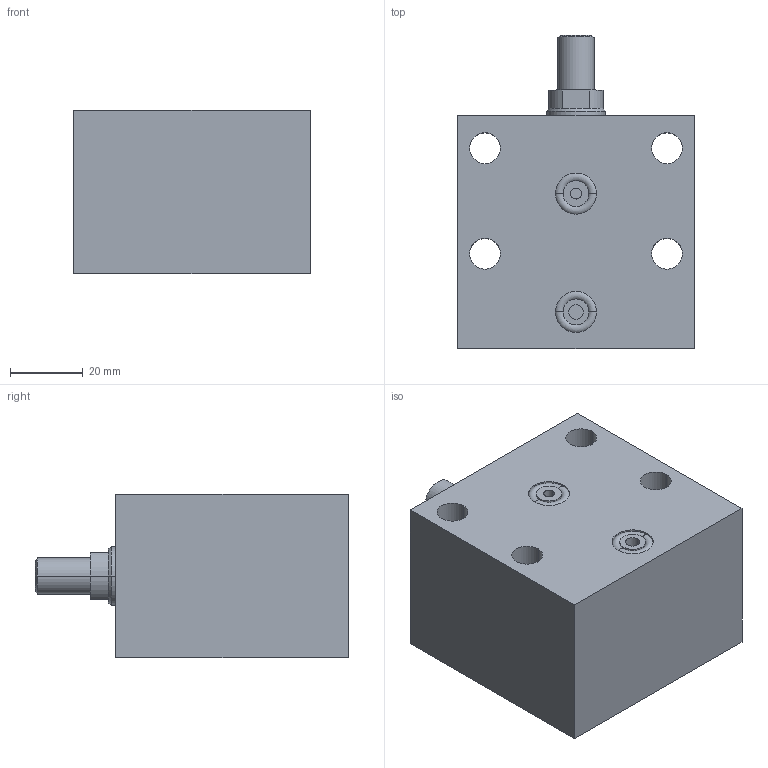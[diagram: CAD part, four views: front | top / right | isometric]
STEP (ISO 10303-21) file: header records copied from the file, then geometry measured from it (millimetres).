
FILE_DESCRIPTION (( 'STEP AP203' ), '1' );
FILE_NAME ('GERMA_Blockzylinder_603-025-020-A.STEP', '2016-01-08T18:11:25', ( '' ), ( '' ), 'SwSTEP 2.0', 'SolidWorks 2015', '' );
FILE_SCHEMA (( 'CONFIG_CONTROL_DESIGN' ));
Length unit declared in the file: millimetre
Products named in the file (3): GH-600-025_GH-603-025-020; Kolben 60x-025_Kolben DU.25-Hub20-AG; GERMA_Blockzylinder_603-025-020-A
Assembly tree (2 placements, depth 2):
  GERMA_Blockzylinder_603-025-020-A
    GH-600-025_GH-603-025-020
    Kolben 60x-025_Kolben DU.25-Hub20-AG
Bounding box: 65 x 86 x 45 mm (x, y, z)
Volume: 173381.6 mm3; surface area: 33610.4 mm2
Topology: 2 solids, 2 shells, 77 faces, 166 edges, 101 vertices
Faces by surface type: cylinder 39, plane 22, cone 12, torus 4
Entity records: 2402 total; most frequent: DIRECTION 419, CARTESIAN_POINT 345, ORIENTED_EDGE 324, AXIS2_PLACEMENT_3D 175, EDGE_CURVE 162, VERTEX_POINT 101, EDGE_LOOP 97, CIRCLE 93
